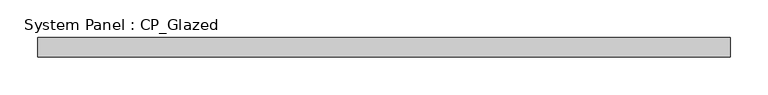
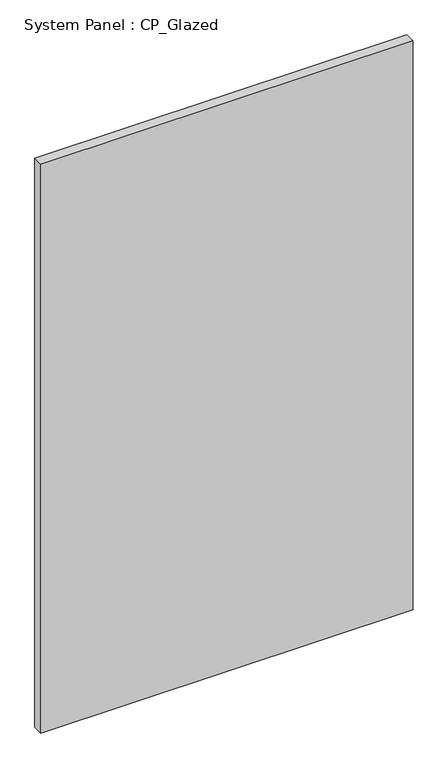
"""IFC4 building model written with IfcOpenShell, lengths in millimetres: plate geometry, System Panel : CP_Glazed."""

from ifc_helpers import new_model, si_unit, origin, origin_with_axes, place, context, project, spatial, polyline, outline, extrude, source, transform, mapped, element, save


def system_panel_cp_glazed_fa8b3cbc(model_context):
    return source(origin(), model_context, "Body", "SweptSolid", [
        extrude(outline(polyline([(457.8803571, 19.05), (-457.8803571, 19.05), (-457.8803571, 44.45), (457.8803571, 44.45), (457.8803571, 19.05)])), origin_with_axes(), (0.0, 0.0, 1.0), 1479.55),
    ])


if __name__ == "__main__":
    model = new_model("IFC4")
    model_context = context("Model", 3, world=origin())
    ifc_project = project(units=[si_unit("LENGTHUNIT", "METRE", prefix="MILLI")], contexts=[model_context])
    site = spatial("IfcSite", under=ifc_project)
    building = spatial("IfcBuilding", under=site)
    placement = place(None, origin())
    system_panel_cp_glazed_shape = system_panel_cp_glazed_fa8b3cbc(model_context)
    element("IfcPlate", 1, ObjectType="System Panel : CP_Glazed", at=placement, inside=building, context=model_context, shape_type="MappedRepresentation", body=[
        mapped(system_panel_cp_glazed_shape, transform((0.0, 0.0, 0.0), x_axis=(1.0, 0.0, 0.0), y_axis=(0.0, 1.0, 0.0), z_axis=(0.0, 0.0, 1.0))),
    ])
    save(model, "model.ifc")
